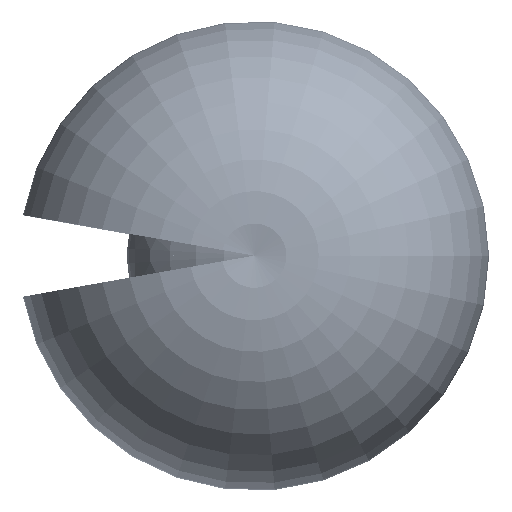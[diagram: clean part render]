
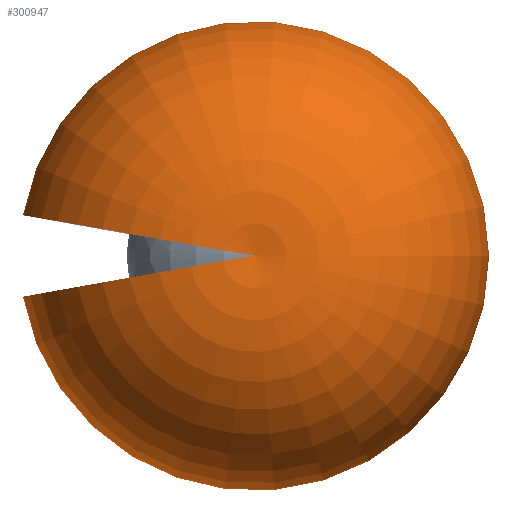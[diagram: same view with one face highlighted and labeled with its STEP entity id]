
A CAD part, top view. The second image highlights one B-rep face of the part: STEP entity #300947.
In plain terms, the highlighted toroidal (fillet/blend) face has major radius 690 mm and minor radius 3312.04 mm.
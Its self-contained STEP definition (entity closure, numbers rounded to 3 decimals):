
#4901 = DIRECTION ( 'NONE',  ( -1., 0., 0. ) ) ;
#17622 = DIRECTION ( 'NONE',  ( 0.174, 0.985, 0. ) ) ;
#18700 = CIRCLE ( 'NONE', #404156, 3312.036 ) ;
#29700 = ORIENTED_EDGE ( 'NONE', *, *, #75794, .F. ) ;
#46871 = CARTESIAN_POINT ( 'NONE',  ( -1795.091, 316.523, -2582.296 ) ) ;
#61736 = DIRECTION ( 'NONE',  ( 0., 0., 1. ) ) ;
#74735 = DIRECTION ( 'NONE',  ( 0., 0., -1. ) ) ;
#75794 = EDGE_CURVE ( 'NONE', #307551, #126166, #401395, .T. ) ;
#117941 = CARTESIAN_POINT ( 'NONE',  ( -1795.091, -316.523, -2582.296 ) ) ;
#126166 = VERTEX_POINT ( 'NONE', #309014 ) ;
#127841 = CARTESIAN_POINT ( 'NONE',  ( 0., 0., 530. ) ) ;
#133577 = DIRECTION ( 'NONE',  ( -0.174, 0.985, 0. ) ) ;
#136234 = CIRCLE ( 'NONE', #332409, 1822.783 ) ;
#145643 = AXIS2_PLACEMENT_3D ( 'NONE', #127841, #74735, #4901 ) ;
#181652 = DIRECTION ( 'NONE',  ( 0., 0., -1. ) ) ;
#185831 = CARTESIAN_POINT ( 'NONE',  ( 0., 0., -2582.296 ) ) ;
#211837 = AXIS2_PLACEMENT_3D ( 'NONE', #389852, #133577, #61736 ) ;
#223048 = EDGE_CURVE ( 'NONE', #284629, #126166, #18700, .T. ) ;
#233342 = ORIENTED_EDGE ( 'NONE', *, *, #223048, .T. ) ;
#251434 = DIRECTION ( 'NONE',  ( -1., 0., 0. ) ) ;
#278059 = DIRECTION ( 'NONE',  ( 0., 0., 1. ) ) ;
#284629 = VERTEX_POINT ( 'NONE', #46871 ) ;
#288792 = FACE_OUTER_BOUND ( 'NONE', #389368, .T. ) ;
#300947 = ADVANCED_FACE ( 'NONE', ( #288792 ), #328140, .T. ) ;
#307551 = VERTEX_POINT ( 'NONE', #117941 ) ;
#307726 = CARTESIAN_POINT ( 'NONE',  ( -679.517, 119.817, 530. ) ) ;
#309014 = CARTESIAN_POINT ( 'NONE',  ( 0., 0., 3769.365 ) ) ;
#328140 = TOROIDAL_SURFACE ( 'NONE', #145643, 690., 3312.036 ) ;
#332409 = AXIS2_PLACEMENT_3D ( 'NONE', #185831, #181652, #251434 ) ;
#358363 = EDGE_CURVE ( 'NONE', #284629, #307551, #136234, .T. ) ;
#389368 = EDGE_LOOP ( 'NONE', ( #408450, #233342, #29700 ) ) ;
#389852 = CARTESIAN_POINT ( 'NONE',  ( -679.517, -119.817, 530. ) ) ;
#401395 = CIRCLE ( 'NONE', #211837, 3312.036 ) ;
#404156 = AXIS2_PLACEMENT_3D ( 'NONE', #307726, #17622, #278059 ) ;
#408450 = ORIENTED_EDGE ( 'NONE', *, *, #358363, .F. ) ;
